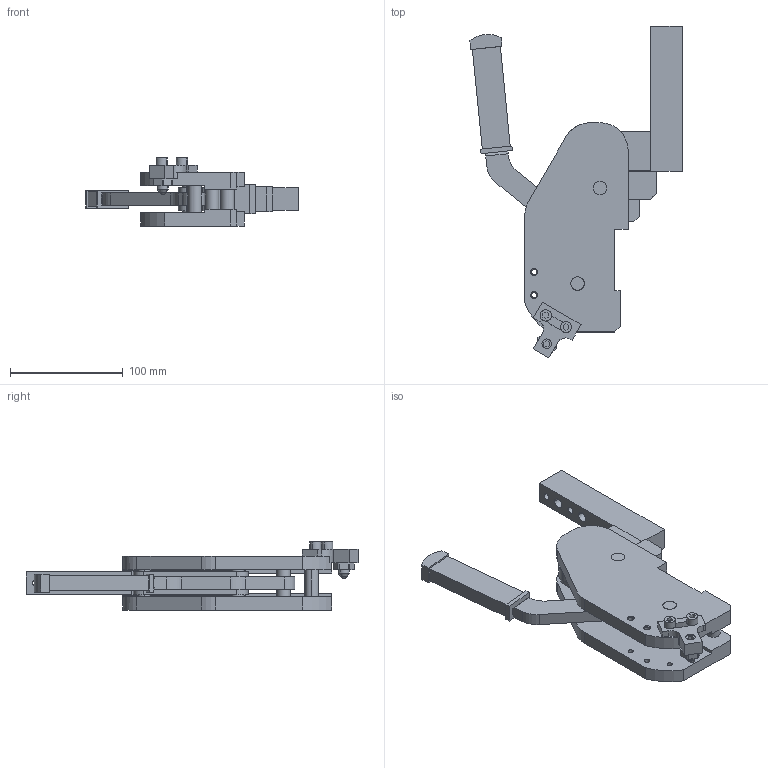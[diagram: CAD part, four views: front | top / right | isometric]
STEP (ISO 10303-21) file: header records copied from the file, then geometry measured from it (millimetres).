
FILE_DESCRIPTION (( 'STEP AP214' ), '1' );
FILE_NAME ('mc_o3c_ld.STEP', '2014-03-17T09:15:45', ( 'vep' ), ( 'TOSHIBA' ), 'SwSTEP 2.0', 'SolidWorks 2013', '' );
FILE_SCHEMA (( 'AUTOMOTIVE_DESIGN' ));
Length unit declared in the file: millimetre
Products named in the file (7): mc_o3c_ld; gruppo_montante_mc; leva_mc; biella_leva_mc_; biella_mc; staffa_fermo_leva_mc; leva_v3c_o3c_mc
Assembly tree (7 placements, depth 2):
  mc_o3c_ld
    gruppo_montante_mc
    leva_mc
    biella_leva_mc_
    biella_mc  x2
    staffa_fermo_leva_mc
    leva_v3c_o3c_mc
Bounding box: 188.82 x 295.12 x 60.7 mm (x, y, z)
Volume: 609457.9 mm3; surface area: 148451.3 mm2
Topology: 7 solids, 7 shells, 388 faces, 985 edges, 621 vertices
Faces by surface type: plane 177, cylinder 151, cone 58, sphere 2
Entity records: 12188 total; most frequent: DIRECTION 2022, CARTESIAN_POINT 1900, ORIENTED_EDGE 1844, EDGE_CURVE 922, AXIS2_PLACEMENT_3D 717, VERTEX_POINT 595, LINE 588, VECTOR 588
